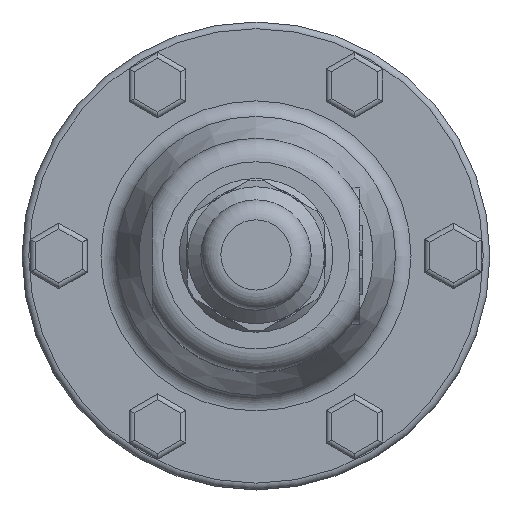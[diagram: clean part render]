
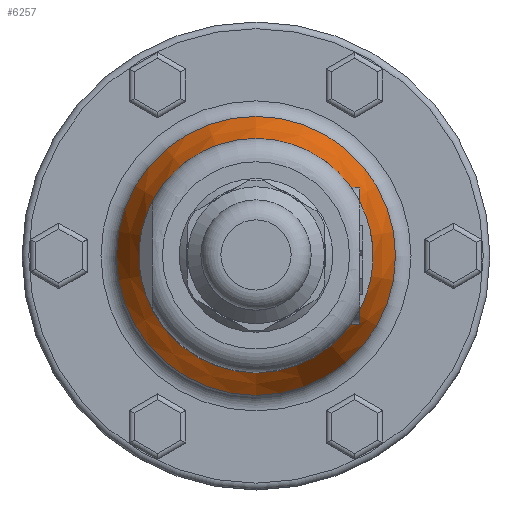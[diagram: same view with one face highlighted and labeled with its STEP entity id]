
A CAD part, top view. The second image highlights one B-rep face of the part: STEP entity #6257.
In plain terms, the highlighted conical face has half-angle 21.801 degrees and reference radius 39 mm.
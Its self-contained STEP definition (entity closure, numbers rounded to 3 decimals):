
#24=CONICAL_SURFACE('',#6704,39.,21.801);
#56=FACE_BOUND('',#2004,.T.);
#1600=FACE_OUTER_BOUND('',#2003,.T.);
#2003=EDGE_LOOP('',(#4537));
#2004=EDGE_LOOP('',(#4538));
#2451=CIRCLE('',#6700,41.743);
#2454=CIRCLE('',#6705,35.);
#2901=VERTEX_POINT('',#10133);
#2940=VERTEX_POINT('',#10213);
#3527=EDGE_CURVE('',#2901,#2901,#2451,.T.);
#3566=EDGE_CURVE('',#2940,#2940,#2454,.T.);
#4537=ORIENTED_EDGE('',*,*,#3566,.T.);
#4538=ORIENTED_EDGE('',*,*,#3527,.F.);
#6257=ADVANCED_FACE('',(#1600,#56),#24,.T.);
#6700=AXIS2_PLACEMENT_3D('',#10134,#7396,#7397);
#6704=AXIS2_PLACEMENT_3D('',#10212,#7440,#7441);
#6705=AXIS2_PLACEMENT_3D('',#10214,#7442,#7443);
#7396=DIRECTION('center_axis',(0.,0.,
-1.));
#7397=DIRECTION('ref_axis',(0.,-1.,0.));
#7440=DIRECTION('center_axis',(0.,0.,-1.));
#7441=DIRECTION('ref_axis',(0.,1.,0.));
#7442=DIRECTION('center_axis',(0.,0.,-1.));
#7443=DIRECTION('ref_axis',(1.,0.,0.));
#10133=CARTESIAN_POINT('',(0.,41.743,56.643));
#10134=CARTESIAN_POINT('Origin',(0.,0.,
56.643));
#10212=CARTESIAN_POINT('Origin',(0.,0.,63.5));
#10213=CARTESIAN_POINT('',(0.,35.,73.5));
#10214=CARTESIAN_POINT('Origin',(0.,0.,73.5));
